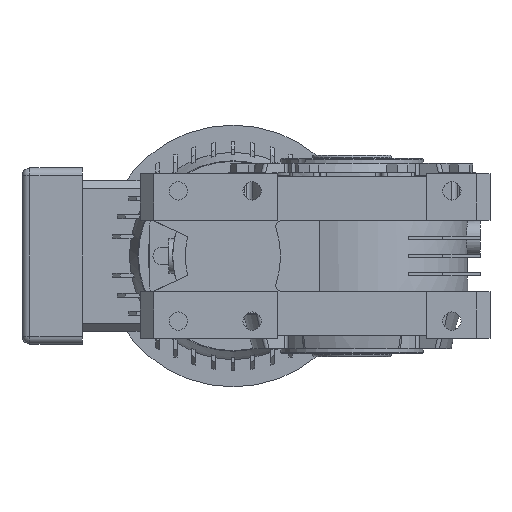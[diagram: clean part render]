
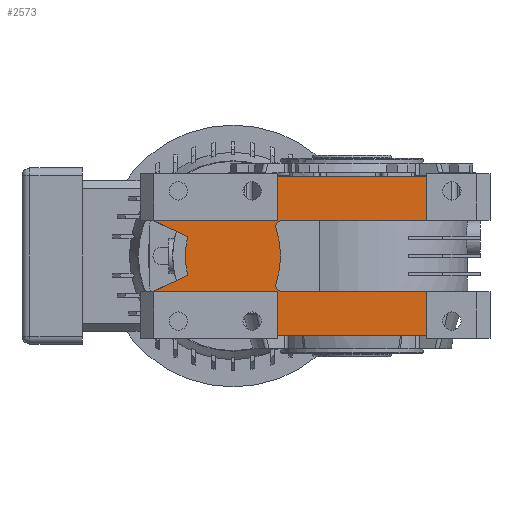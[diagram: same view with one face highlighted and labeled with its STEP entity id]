
A CAD part, left-side view. The second image highlights one B-rep face of the part: STEP entity #2573.
In plain terms, the highlighted planar face has unit normal (-1, 0, 0).
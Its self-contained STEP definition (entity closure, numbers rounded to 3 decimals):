
#2573 = ADVANCED_FACE( '', ( #6029 ), #6030, .T. );
#6029 = FACE_OUTER_BOUND( '', #10446, .T. );
#6030 = PLANE( '', #10447 );
#10446 = EDGE_LOOP( '', ( #18704, #18705, #18706, #18707, #18708, #18709, #18710, #18711, #18712, #18713, #18714, #18715, #18716, #18717, #18718, #18719, #18720, #18721 ) );
#10447 = AXIS2_PLACEMENT_3D( '', #18722, #18723, #18724 );
#18704 = ORIENTED_EDGE( '', *, *, #26736, .T. );
#18705 = ORIENTED_EDGE( '', *, *, #29174, .T. );
#18706 = ORIENTED_EDGE( '', *, *, #29175, .T. );
#18707 = ORIENTED_EDGE( '', *, *, #29176, .T. );
#18708 = ORIENTED_EDGE( '', *, *, #29177, .T. );
#18709 = ORIENTED_EDGE( '', *, *, #26932, .F. );
#18710 = ORIENTED_EDGE( '', *, *, #29178, .T. );
#18711 = ORIENTED_EDGE( '', *, *, #29179, .F. );
#18712 = ORIENTED_EDGE( '', *, *, #26545, .T. );
#18713 = ORIENTED_EDGE( '', *, *, #28577, .T. );
#18714 = ORIENTED_EDGE( '', *, *, #29180, .F. );
#18715 = ORIENTED_EDGE( '', *, *, #29181, .T. );
#18716 = ORIENTED_EDGE( '', *, *, #29182, .T. );
#18717 = ORIENTED_EDGE( '', *, *, #26839, .T. );
#18718 = ORIENTED_EDGE( '', *, *, #27462, .F. );
#18719 = ORIENTED_EDGE( '', *, *, #29183, .F. );
#18720 = ORIENTED_EDGE( '', *, *, #27783, .T. );
#18721 = ORIENTED_EDGE( '', *, *, #27433, .F. );
#18722 = CARTESIAN_POINT( '', ( -86., 58., 0. ) );
#18723 = DIRECTION( '', ( -1., 0., 0. ) );
#18724 = DIRECTION( '', ( 0., 0., -1. ) );
#26545 = EDGE_CURVE( '', #31885, #31883, #31886, .T. );
#26736 = EDGE_CURVE( '', #32222, #32220, #32223, .T. );
#26839 = EDGE_CURVE( '', #32403, #32405, #32407, .T. );
#26932 = EDGE_CURVE( '', #32567, #32569, #32570, .T. );
#27433 = EDGE_CURVE( '', #32222, #33435, #33447, .T. );
#27462 = EDGE_CURVE( '', #33498, #32405, #33500, .T. );
#27783 = EDGE_CURVE( '', #34017, #33435, #34018, .T. );
#28577 = EDGE_CURVE( '', #31883, #35280, #35282, .T. );
#29174 = EDGE_CURVE( '', #32220, #36142, #36143, .T. );
#29175 = EDGE_CURVE( '', #36142, #36144, #36145, .T. );
#29176 = EDGE_CURVE( '', #36144, #36146, #36147, .T. );
#29177 = EDGE_CURVE( '', #36146, #32569, #36148, .T. );
#29178 = EDGE_CURVE( '', #32567, #36149, #36150, .T. );
#29179 = EDGE_CURVE( '', #31885, #36149, #36151, .T. );
#29180 = EDGE_CURVE( '', #36152, #35280, #36153, .T. );
#29181 = EDGE_CURVE( '', #36152, #36154, #36155, .T. );
#29182 = EDGE_CURVE( '', #36154, #32403, #36156, .T. );
#29183 = EDGE_CURVE( '', #34017, #33498, #36157, .T. );
#31883 = VERTEX_POINT( '', #39645 );
#31885 = VERTEX_POINT( '', #39648 );
#31886 = LINE( '', #39649, #39650 );
#32220 = VERTEX_POINT( '', #40153 );
#32222 = VERTEX_POINT( '', #40156 );
#32223 = LINE( '', #40157, #40158 );
#32403 = VERTEX_POINT( '', #40405 );
#32405 = VERTEX_POINT( '', #40408 );
#32407 = LINE( '', #40411, #40412 );
#32567 = VERTEX_POINT( '', #40644 );
#32569 = VERTEX_POINT( '', #40647 );
#32570 = LINE( '', #40648, #40649 );
#33435 = VERTEX_POINT( '', #41845 );
#33447 = LINE( '', #41863, #41864 );
#33498 = VERTEX_POINT( '', #41931 );
#33500 = LINE( '', #41934, #41935 );
#34017 = VERTEX_POINT( '', #42716 );
#34018 = LINE( '', #42717, #42718 );
#35280 = VERTEX_POINT( '', #44726 );
#35282 = LINE( '', #44729, #44730 );
#36142 = VERTEX_POINT( '', #46241 );
#36143 = CIRCLE( '', #46242, 4. );
#36144 = VERTEX_POINT( '', #46243 );
#36145 = CIRCLE( '', #46244, 55. );
#36146 = VERTEX_POINT( '', #46245 );
#36147 = CIRCLE( '', #46246, 4. );
#36148 = LINE( '', #46247, #46248 );
#36149 = VERTEX_POINT( '', #46249 );
#36150 = LINE( '', #46250, #46251 );
#36151 = LINE( '', #46252, #46253 );
#36152 = VERTEX_POINT( '', #46254 );
#36153 = LINE( '', #46255, #46256 );
#36154 = VERTEX_POINT( '', #46257 );
#36155 = CIRCLE( '', #46258, 55. );
#36156 = LINE( '', #46259, #46260 );
#36157 = LINE( '', #46261, #46262 );
#39645 = CARTESIAN_POINT( '', ( -86., 124.5, 22.5 ) );
#39648 = CARTESIAN_POINT( '', ( -86., 47., 22.5 ) );
#39649 = CARTESIAN_POINT( '', ( -86., 58., 22.5 ) );
#39650 = VECTOR( '', #50393, 1000. );
#40153 = CARTESIAN_POINT( '', ( -86., 43.975, -22.5 ) );
#40156 = CARTESIAN_POINT( '', ( -86., -47., -22.5 ) );
#40157 = CARTESIAN_POINT( '', ( -86., -87., -22.5 ) );
#40158 = VECTOR( '', #50600, 1000. );
#40405 = CARTESIAN_POINT( '', ( -86., 124.5, -22. ) );
#40408 = CARTESIAN_POINT( '', ( -86., 124.5, -22.5 ) );
#40411 = CARTESIAN_POINT( '', ( -86., 124.5, 0. ) );
#40412 = VECTOR( '', #50717, 1000. );
#40644 = CARTESIAN_POINT( '', ( -86., -47., 50. ) );
#40647 = CARTESIAN_POINT( '', ( -86., -47., 22.5 ) );
#40648 = CARTESIAN_POINT( '', ( -86., -47., 52. ) );
#40649 = VECTOR( '', #50817, 1000. );
#41845 = CARTESIAN_POINT( '', ( -86., -47., -50. ) );
#41863 = CARTESIAN_POINT( '', ( -86., -47., 52. ) );
#41864 = VECTOR( '', #51621, 1000. );
#41931 = CARTESIAN_POINT( '', ( -86., 47., -22.5 ) );
#41934 = CARTESIAN_POINT( '', ( -86., 58., -22.5 ) );
#41935 = VECTOR( '', #51659, 1000. );
#42716 = CARTESIAN_POINT( '', ( -86., 47., -50. ) );
#42717 = CARTESIAN_POINT( '', ( -86., 47., -50. ) );
#42718 = VECTOR( '', #51996, 1000. );
#44726 = CARTESIAN_POINT( '', ( -86., 124.5, 22. ) );
#44729 = CARTESIAN_POINT( '', ( -86., 124.5, 0. ) );
#44730 = VECTOR( '', #52968, 1000. );
#46241 = CARTESIAN_POINT( '', ( -86., 47.774, -17.246 ) );
#46242 = AXIS2_PLACEMENT_3D( '', #53566, #53567, #53568 );
#46243 = CARTESIAN_POINT( '', ( -86., 47.774, 17.246 ) );
#46244 = AXIS2_PLACEMENT_3D( '', #53569, #53570, #53571 );
#46245 = CARTESIAN_POINT( '', ( -86., 43.975, 22.5 ) );
#46246 = AXIS2_PLACEMENT_3D( '', #53572, #53573, #53574 );
#46247 = CARTESIAN_POINT( '', ( -86., 133.5, 22.5 ) );
#46248 = VECTOR( '', #53575, 1000. );
#46249 = CARTESIAN_POINT( '', ( -86., 47., 50. ) );
#46250 = CARTESIAN_POINT( '', ( -86., 47., 50. ) );
#46251 = VECTOR( '', #53576, 1000. );
#46252 = CARTESIAN_POINT( '', ( -86., 47., 52. ) );
#46253 = VECTOR( '', #53577, 1000. );
#46254 = CARTESIAN_POINT( '', ( -86., 103.616, 12.262 ) );
#46255 = CARTESIAN_POINT( '', ( -86., 125.572, 22.5 ) );
#46256 = VECTOR( '', #53578, 1000. );
#46257 = CARTESIAN_POINT( '', ( -86., 103.616, -12.262 ) );
#46258 = AXIS2_PLACEMENT_3D( '', #53579, #53580, #53581 );
#46259 = CARTESIAN_POINT( '', ( -86., 125.572, -22.5 ) );
#46260 = VECTOR( '', #53582, 1000. );
#46261 = CARTESIAN_POINT( '', ( -86., 47., -28. ) );
#46262 = VECTOR( '', #53583, 1000. );
#50393 = DIRECTION( '', ( 0., 1., 0. ) );
#50600 = DIRECTION( '', ( 0., 1., 0. ) );
#50717 = DIRECTION( '', ( 0., 0., -1. ) );
#50817 = DIRECTION( '', ( 0., 0., -1. ) );
#51621 = DIRECTION( '', ( 0., 0., -1. ) );
#51659 = DIRECTION( '', ( 0., 1., 0. ) );
#51996 = DIRECTION( '', ( 0., -1., 0. ) );
#52968 = DIRECTION( '', ( 0., 0., -1. ) );
#53566 = CARTESIAN_POINT( '', ( -86., 43.975, -18.5 ) );
#53567 = DIRECTION( '', ( 1., 0., 0. ) );
#53568 = DIRECTION( '', ( 0., 1., 0. ) );
#53569 = CARTESIAN_POINT( '', ( -86., 100., 0. ) );
#53570 = DIRECTION( '', ( -1., 0., 0. ) );
#53571 = DIRECTION( '', ( 0., 0., 1. ) );
#53572 = CARTESIAN_POINT( '', ( -86., 43.975, 18.5 ) );
#53573 = DIRECTION( '', ( 1., 0., 0. ) );
#53574 = DIRECTION( '', ( 0., 1., 0. ) );
#53575 = DIRECTION( '', ( 0., -1., 0. ) );
#53576 = DIRECTION( '', ( 0., 1., 0. ) );
#53577 = DIRECTION( '', ( 0., 0., 1. ) );
#53578 = DIRECTION( '', ( 0., 0.906, 0.423 ) );
#53579 = CARTESIAN_POINT( '', ( -86., 50., 0. ) );
#53580 = DIRECTION( '', ( -1., 0., 0. ) );
#53581 = DIRECTION( '', ( 0., -1., 0. ) );
#53582 = DIRECTION( '', ( 0., 0.906, -0.423 ) );
#53583 = DIRECTION( '', ( 0., 0., 1. ) );
